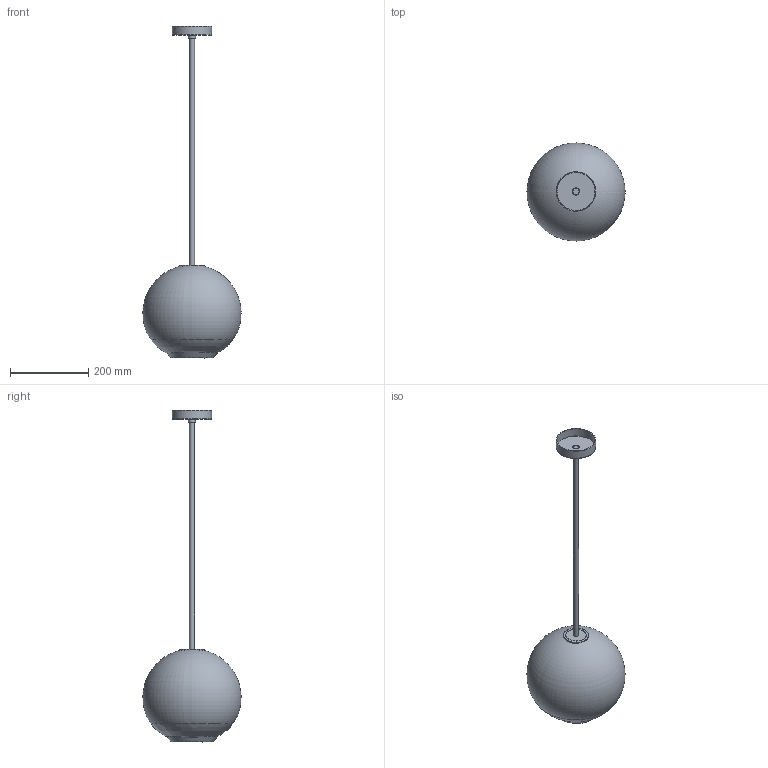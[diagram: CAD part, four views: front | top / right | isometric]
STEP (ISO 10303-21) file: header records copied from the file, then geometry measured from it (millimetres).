
FILE_DESCRIPTION(/* description */ (''),/* implementation_level */ '2;1');
FILE_NAME(/* name */ 'SkLO_Float_1.0_Pendant_LT253_3D_EU_m',/* time_stamp */ '2024-10-23T15:37:30+02:00',/* author */ (''),/* organization */ (''),/* preprocessor_version */ 'ST-DEVELOPER v16.5',/* originating_system */ 'Rhino 7.34',/* authorisation */ '');
FILE_SCHEMA (('CONFIG_CONTROL_DESIGN'));
Length unit declared in the file: millimetre
Products named in the file (1): Document
Bounding box: 249.99 x 250 x 846.17 mm (x, y, z)
Volume: 1679148.5 mm3; surface area: 495926.5 mm2
Topology: 11 solids, 12 shells, 345 faces, 828 edges, 526 vertices
Faces by surface type: plane 163, cylinder 106, bspline 76
Full cylindrical faces by diameter (mm): 7.5 x1, 8 x1, 10.2 x1, 11.236 x1, 13 x2, 16.2 x1, 16.572 x1, 18 x1, 42 x1, 42.416 x1, 45 x1, 47.21 x1, 51.33 x2, 52 x1, 52.4 x1, 53 x1, 53.931 x1, 55 x1, 62 x1, 64 x2, 97 x1, 100 x1
Entity records: 56763 total; most frequent: CARTESIAN_POINT 51163, ORIENTED_EDGE 1641, EDGE_CURVE 821, VERTEX_POINT 524, B_SPLINE_CURVE_WITH_KNOTS 523, EDGE_LOOP 386, ADVANCED_FACE 345, FACE_OUTER_BOUND 345
